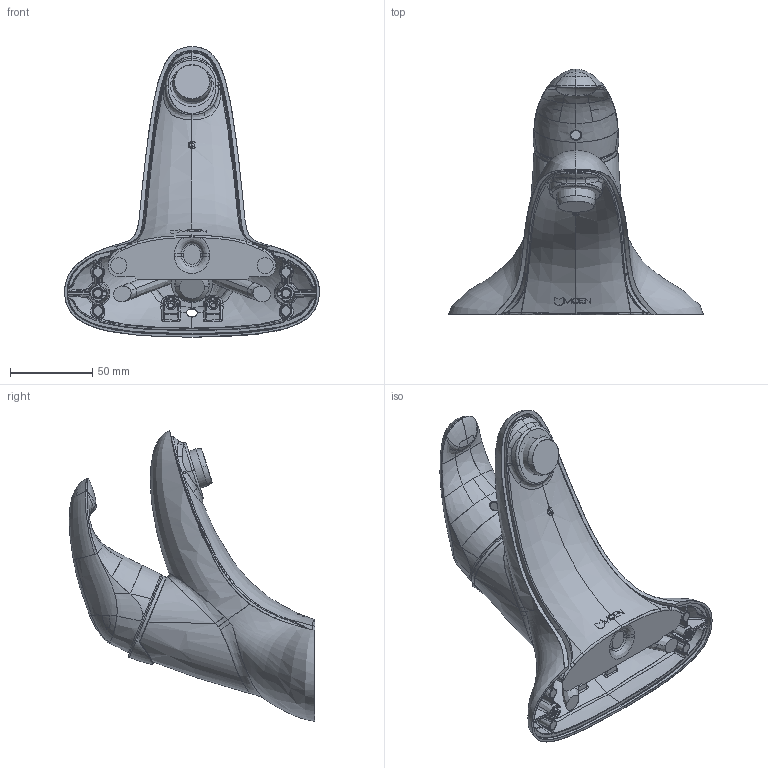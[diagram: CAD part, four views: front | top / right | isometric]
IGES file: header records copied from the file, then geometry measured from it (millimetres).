
Start section:  PTC IGES file: sku_l4721.igs
Global section: file name: sku_l4721.igs; native system: Pro/ENGINEER by Parametric Technology Corporation; preprocessor: 2006460; author: 9dutterb; organization: Unknown; date: 20071213.164236; units: inch
Bounding box: 154.79 x 149.19 x 176.53 mm (x, y, z)
Surface area: 118193.2 mm2 (no closed solid volume)
Topology: 0 solids, 0 shells, 1184 faces, 5656 edges, 5654 vertices
Faces by surface type: bspline 854, revolution 327, extrusion 3
